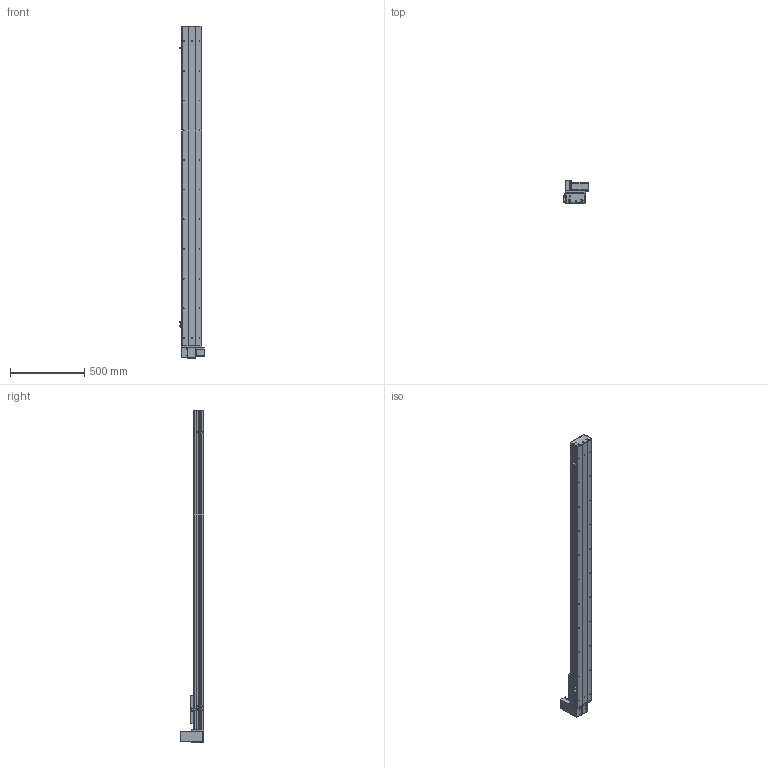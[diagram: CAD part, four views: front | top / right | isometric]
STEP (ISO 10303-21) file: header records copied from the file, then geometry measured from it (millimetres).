
FILE_DESCRIPTION (( 'STEP AP203' ), '1' );
FILE_NAME ('Y135CB-D90-S1850-UR-P400W.STEP', '2020-02-18T04:24:28', ( '微软用户' ), ( '微软中国' ), 'SwSTEP 2.0', 'SolidWorks 2017', '' );
FILE_SCHEMA (( 'CONFIG_CONTROL_DESIGN' ));
Length unit declared in the file: millimetre
Products named in the file (18): san松下电机400不带刹车----; Y10B-耜蚾蟀諉啣----; 5CB --掛极耜裔啣-; 00B-俋欶BM--; C-詩湍揤踡え-陔; Y135CB-耜裔; Y135CB-D90-S1850-UR-P400W; 135CB--詩湍-CE; 135CB---遴掛极.-; Y100-135俋离換覜ん--; 35CB---喘謫眊楊擘啣; Y135C-陔俋离換覜結え-; 0B-埴倛裔啣; 5C--俋欶; 0B-源倛裔啣; C-雄赽釱--; 0B-萇儂楊擘啣; Y10B--々湍喘謫眊--666
Assembly tree (21 placements, depth 2):
  Y135CB-D90-S1850-UR-P400W
    Y135CB-耜裔
    135CB---遴掛极.-
    35CB---喘謫眊楊擘啣
    0B-埴倛裔啣
    0B-源倛裔啣
    0B-萇儂楊擘啣
    san松下电机400不带刹车----
    5CB --掛极耜裔啣-  x2
    C-詩湍揤踡え-陔  x2
    135CB--詩湍-CE
    Y100-135俋离換覜ん--  x3
    Y135C-陔俋离換覜結え-
    5C--俋欶
    C-雄赽釱--
    Y10B--々湍喘謫眊--666
    Y10B-耜蚾蟀諉啣----
    00B-俋欶BM--
Bounding box: 167.5 x 158.7 x 2238 mm (x, y, z)
Volume: 6593884.2 mm3; surface area: 2602338 mm2
Topology: 21 solids, 21 shells, 961 faces, 2599 edges, 1722 vertices
Faces by surface type: cylinder 489, plane 456, cone 16
Entity records: 30157 total; most frequent: DIRECTION 5011, CARTESIAN_POINT 4988, ORIENTED_EDGE 4674, EDGE_CURVE 2337, AXIS2_PLACEMENT_3D 1833, VERTEX_POINT 1550, LINE 1345, VECTOR 1345
